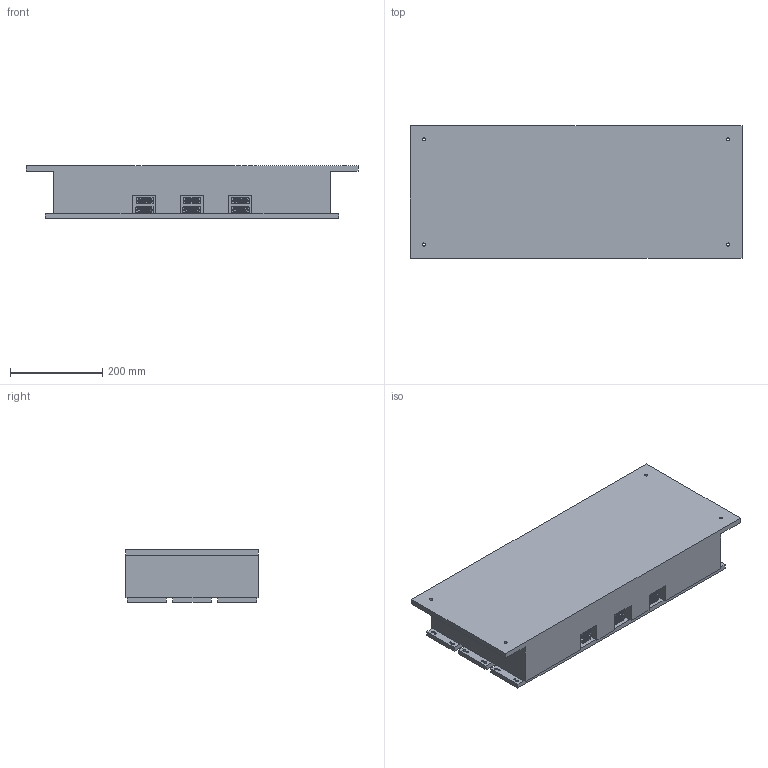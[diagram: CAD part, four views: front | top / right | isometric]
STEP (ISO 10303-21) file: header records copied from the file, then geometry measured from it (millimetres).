
FILE_DESCRIPTION((''),'2;1');
FILE_NAME('C:\Users\Filippo\Desktop\AVI 3D models and STP files\AVI-600-LP\AVI600LP.stp','2013-08-07T11:05:24',('Filippo'),(''),'Autodesk Inventor 2012','Autodesk Inventor 2012','');
FILE_SCHEMA(('AUTOMOTIVE_DESIGN { 1 0 10303 214 1 1 1 1 }'));
Products named in the file (4): Assembly of AVI600LP; AVI-600S-LP; D sub 15 S female; D sub 15 P male
Assembly tree (7 placements, depth 2):
  Assembly of AVI600LP
    AVI-600S-LP
    D sub 15 S female  x3
    D sub 15 P male  x3
Bounding box: 720 x 288 x 114.5 mm (x, y, z)
Volume: 19933519.5 mm3; surface area: 695887.4 mm2
Topology: 7 solids, 7 shells, 1979 faces, 4803 edges, 3072 vertices
Faces by surface type: plane 1132, cylinder 646, torus 96, bspline 60, sphere 45
Full cylindrical faces by diameter (mm): 0.991 x90, 1.016 x90, 1.524 x90, 3.048 x12, 4.134 x12, 6.5 x12, 6.647 x4
Entity records: 22743 total; most frequent: CARTESIAN_POINT 5824, DIRECTION 3510, ORIENTED_EDGE 3148, EDGE_CURVE 1574, AXIS2_PLACEMENT_3D 1268, VERTEX_POINT 1082, EDGE_LOOP 992, VECTOR 974
